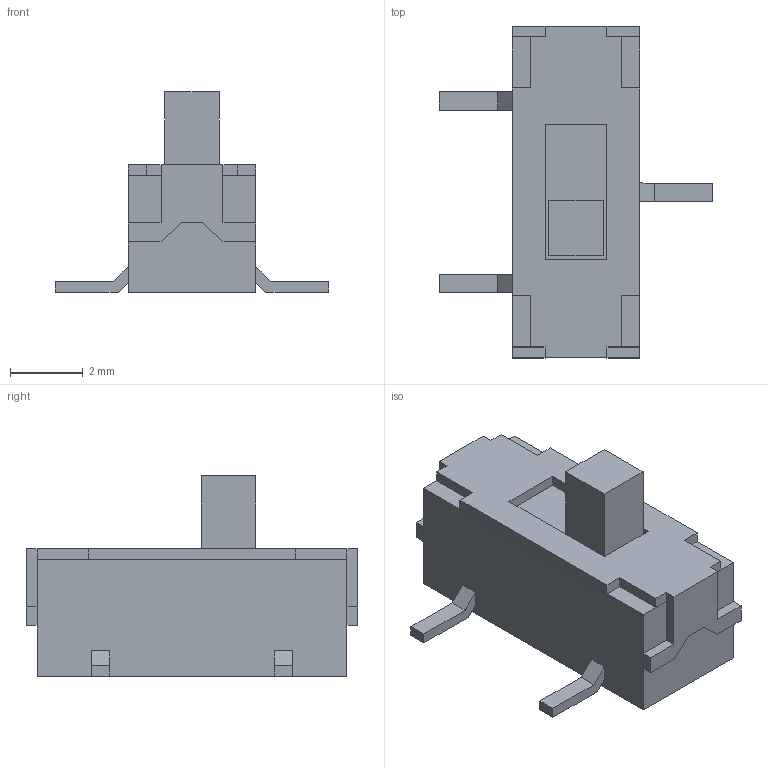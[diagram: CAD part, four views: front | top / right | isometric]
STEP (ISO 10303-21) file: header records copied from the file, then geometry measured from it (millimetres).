
FILE_DESCRIPTION(('FreeCAD Model'),'2;1');
FILE_NAME('Open CASCADE Shape Model','2025-01-27T18:37:53',( 'Krisjanis Rijnieks'),(''),'Open CASCADE STEP processor 7.7', 'FreeCAD','Unknown');
FILE_SCHEMA(('AUTOMOTIVE_DESIGN { 1 0 10303 214 1 1 1 1 }'));
Length unit declared in the file: millimetre
Products named in the file (7): JS102011SCQN; Body; Arm; Jacket; Contact; Contact Clone 1; Contact Clone 2
Assembly tree (6 placements, depth 2):
  JS102011SCQN
    Body
    Arm
    Jacket
    Contact
    Contact Clone 1
    Contact Clone 2
Bounding box: 7.5 x 9.1 x 5.5 mm (x, y, z)
Volume: 109.9 mm3; surface area: 252.8 mm2
Topology: 6 solids, 6 shells, 92 faces, 230 edges, 152 vertices
Faces by surface type: plane 92
Entity records: 2858 total; most frequent: CARTESIAN_POINT 481, ORIENTED_EDGE 460, DIRECTION 428, EDGE_CURVE 230, LINE 230, VECTOR 230, VERTEX_POINT 152, AXIS2_PLACEMENT_3D 99
